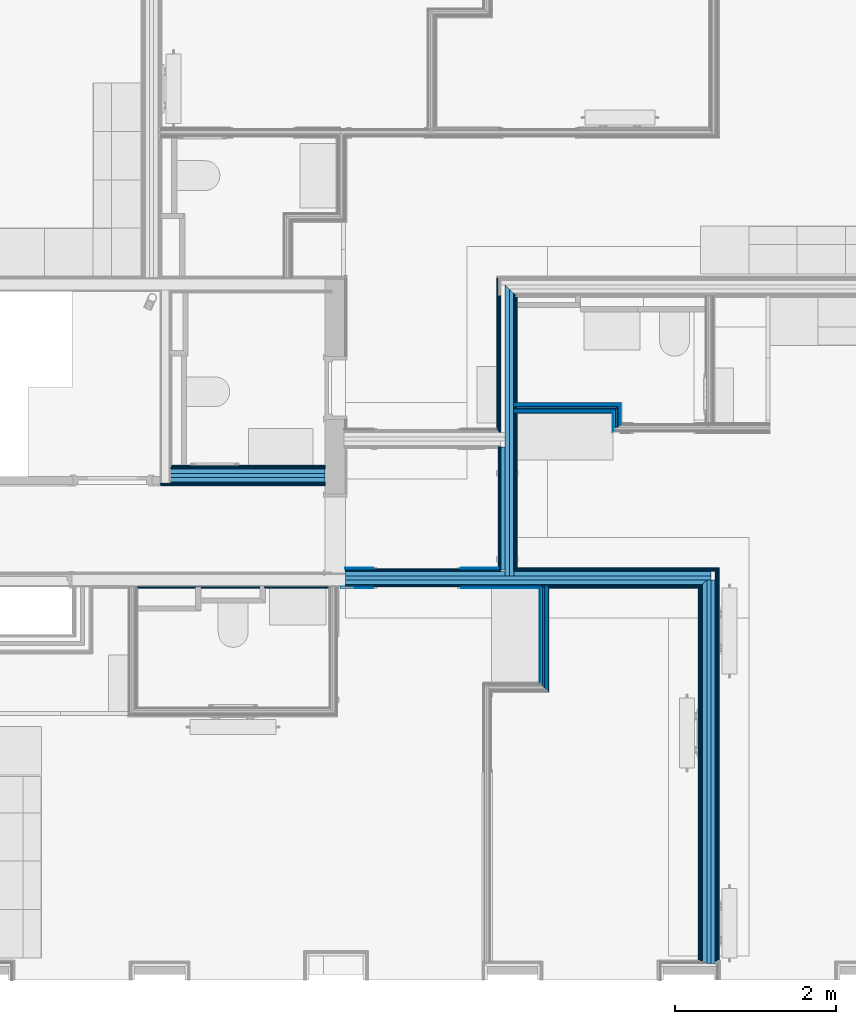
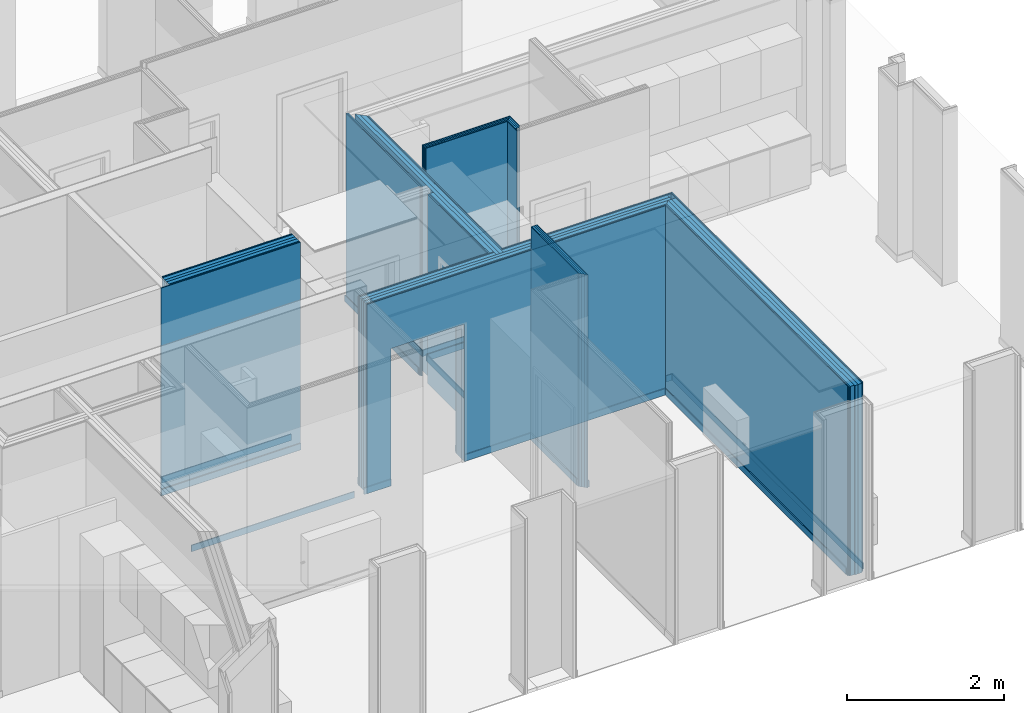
# One storey, part 23 of 65: 65 building element parts, 2 openings, 8 elements without a shape of their own.
"""IFC2X3 building model written with IfcOpenShell, lengths in metres."""

from ifc_helpers import new_model, entity, si_unit, converted_unit, derived_unit, money_unit, direction, frame, frame_2d, origin_with_axes, place, context, subcontext, project, spatial, polyline, rectangle, outline, extrude, material, type_object, element, aggregate, save


model = new_model("IFC2X3")

# Units and contexts
model_context = context("Model", 3, precision=1e-05, world=origin_with_axes(), true_north=direction((0.0, 1.0)))
body_context = subcontext(model_context, "Body", "Model", "MODEL_VIEW", scale=1.0)
ifc_project = project(units=[si_unit("LENGTHUNIT", "METRE"), si_unit("AREAUNIT", "SQUARE_METRE"), si_unit("VOLUMEUNIT", "CUBIC_METRE"), si_unit("ABSORBEDDOSEUNIT", "GRAY"), si_unit("AMOUNTOFSUBSTANCEUNIT", "MOLE"), si_unit("DOSEEQUIVALENTUNIT", "SIEVERT"), si_unit("ELECTRICCAPACITANCEUNIT", "FARAD"), si_unit("ELECTRICCHARGEUNIT", "COULOMB"), si_unit("ELECTRICCONDUCTANCEUNIT", "SIEMENS"), si_unit("ELECTRICCURRENTUNIT", "AMPERE"), si_unit("ELECTRICRESISTANCEUNIT", "OHM"), si_unit("ELECTRICVOLTAGEUNIT", "VOLT"), si_unit("ENERGYUNIT", "JOULE"), si_unit("FORCEUNIT", "NEWTON"), si_unit("FREQUENCYUNIT", "HERTZ"), si_unit("ILLUMINANCEUNIT", "LUX"), si_unit("INDUCTANCEUNIT", "HENRY"), si_unit("LUMINOUSFLUXUNIT", "LUMEN"), si_unit("LUMINOUSINTENSITYUNIT", "CANDELA"), si_unit("MAGNETICFLUXDENSITYUNIT", "TESLA"), si_unit("MAGNETICFLUXUNIT", "WEBER"), si_unit("MASSUNIT", "GRAM"), converted_unit("PLANEANGLEUNIT", "degree", entity("IfcReal", 0.0174532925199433), si_unit("PLANEANGLEUNIT", "RADIAN"), dimensions=[0, 0, 0, 0, 0, 0, 0]), si_unit("POWERUNIT", "WATT"), si_unit("PRESSUREUNIT", "PASCAL"), si_unit("RADIOACTIVITYUNIT", "BECQUEREL"), si_unit("SOLIDANGLEUNIT", "STERADIAN"), si_unit("THERMODYNAMICTEMPERATUREUNIT", "KELVIN"), si_unit("TIMEUNIT", "SECOND"), derived_unit("ACCELERATIONUNIT", [(si_unit("LENGTHUNIT", "METRE"), 1), (si_unit("TIMEUNIT", "SECOND"), -2)]), derived_unit("ANGULARVELOCITYUNIT", [(converted_unit("PLANEANGLEUNIT", "degree", entity("IfcReal", 0.0174532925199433), si_unit("PLANEANGLEUNIT", "RADIAN"), dimensions=[0, 0, 0, 0, 0, 0, 0]), 1), (si_unit("TIMEUNIT", "SECOND"), -1)]), derived_unit("CURVATUREUNIT", [(converted_unit("PLANEANGLEUNIT", "degree", entity("IfcReal", 0.0174532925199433), si_unit("PLANEANGLEUNIT", "RADIAN"), dimensions=[0, 0, 0, 0, 0, 0, 0]), 1), (si_unit("LENGTHUNIT", "METRE"), -1)]), derived_unit("DYNAMICVISCOSITYUNIT", [(si_unit("PRESSUREUNIT", "PASCAL"), 1), (si_unit("TIMEUNIT", "SECOND"), 1)]), derived_unit("HEATFLUXDENSITYUNIT", [(si_unit("POWERUNIT", "WATT"), 1), (si_unit("LENGTHUNIT", "METRE"), -2)]), derived_unit("HEATINGVALUEUNIT", [(si_unit("ENERGYUNIT", "JOULE"), 1), (si_unit("MASSUNIT", "GRAM"), -1)]), derived_unit("INTEGERCOUNTRATEUNIT", [(si_unit("TIMEUNIT", "SECOND"), -1)]), derived_unit("IONCONCENTRATIONUNIT", [(si_unit("MASSUNIT", "GRAM"), 1), (si_unit("VOLUMEUNIT", "CUBIC_METRE"), -1)]), derived_unit("ISOTHERMALMOISTURECAPACITYUNIT", [(si_unit("VOLUMEUNIT", "CUBIC_METRE"), 1), (si_unit("MASSUNIT", "GRAM"), -1)]), derived_unit("KINEMATICVISCOSITYUNIT", [(si_unit("AREAUNIT", "SQUARE_METRE"), 1), (si_unit("TIMEUNIT", "SECOND"), -1)]), derived_unit("LINEARFORCEUNIT", [(si_unit("FORCEUNIT", "NEWTON"), 1), (si_unit("LENGTHUNIT", "METRE"), -1)]), derived_unit("LINEARMOMENTUNIT", [(si_unit("FORCEUNIT", "NEWTON"), 1), (si_unit("LENGTHUNIT", "METRE"), -1)]), derived_unit("LINEARSTIFFNESSUNIT", [(si_unit("FORCEUNIT", "NEWTON"), 1), (si_unit("LENGTHUNIT", "METRE"), -1)]), derived_unit("LINEARVELOCITYUNIT", [(si_unit("LENGTHUNIT", "METRE"), 1), (si_unit("TIMEUNIT", "SECOND"), -1)]), derived_unit("LUMINOUSINTENSITYDISTRIBUTIONUNIT", [(si_unit("LUMINOUSINTENSITYUNIT", "CANDELA"), 1), (si_unit("LUMINOUSFLUXUNIT", "LUMEN"), -1)]), derived_unit("MASSDENSITYUNIT", [(si_unit("MASSUNIT", "GRAM"), 1), (si_unit("VOLUMEUNIT", "CUBIC_METRE"), -1)]), derived_unit("MASSFLOWRATEUNIT", [(si_unit("MASSUNIT", "GRAM"), 1), (si_unit("TIMEUNIT", "SECOND"), -1)]), derived_unit("MASSPERLENGTHUNIT", [(si_unit("MASSUNIT", "GRAM"), 1), (si_unit("LENGTHUNIT", "METRE"), -1)]), derived_unit("MODULUSOFELASTICITYUNIT", [(si_unit("FORCEUNIT", "NEWTON"), 1), (si_unit("AREAUNIT", "SQUARE_METRE"), -1)]), derived_unit("MODULUSOFLINEARSUBGRADEREACTIONUNIT", [(si_unit("FORCEUNIT", "NEWTON"), 1), (si_unit("LENGTHUNIT", "METRE"), -2)]), derived_unit("MODULUSOFROTATIONALSUBGRADEREACTIONUNIT", [(si_unit("FORCEUNIT", "NEWTON"), 1), (si_unit("LENGTHUNIT", "METRE"), 1)]), derived_unit("MODULUSOFSUBGRADEREACTIONUNIT", [(si_unit("FORCEUNIT", "NEWTON"), 1), (si_unit("VOLUMEUNIT", "CUBIC_METRE"), -1)]), derived_unit("MOISTUREDIFFUSIVITYUNIT", [(si_unit("VOLUMEUNIT", "CUBIC_METRE"), 1), (si_unit("TIMEUNIT", "SECOND"), -1)]), derived_unit("MOLECULARWEIGHTUNIT", [(si_unit("MASSUNIT", "GRAM"), 1), (si_unit("AMOUNTOFSUBSTANCEUNIT", "MOLE"), -1)]), derived_unit("PLANARFORCEUNIT", [(si_unit("FORCEUNIT", "NEWTON"), 1), (si_unit("LENGTHUNIT", "METRE"), -2)]), derived_unit("ROTATIONALFREQUENCYUNIT", [(si_unit("TIMEUNIT", "SECOND"), -1)]), derived_unit("ROTATIONALMASSUNIT", [(si_unit("MASSUNIT", "GRAM"), 1), (si_unit("LENGTHUNIT", "METRE"), 2)]), derived_unit("ROTATIONALSTIFFNESSUNIT", [(si_unit("FORCEUNIT", "NEWTON"), 1), (si_unit("LENGTHUNIT", "METRE"), 1), (converted_unit("PLANEANGLEUNIT", "degree", entity("IfcReal", 0.0174532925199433), si_unit("PLANEANGLEUNIT", "RADIAN"), dimensions=[0, 0, 0, 0, 0, 0, 0]), -1)]), derived_unit("SECTIONAREAINTEGRALUNIT", [(si_unit("LENGTHUNIT", "METRE"), 5)]), derived_unit("SECTIONMODULUSUNIT", [(si_unit("LENGTHUNIT", "METRE"), 3)]), derived_unit("SHEARMODULUSUNIT", [(si_unit("FORCEUNIT", "NEWTON"), 1), (si_unit("AREAUNIT", "SQUARE_METRE"), -1)]), derived_unit("SOUNDPOWERUNIT", [(si_unit("ENERGYUNIT", "JOULE"), 1), (si_unit("TIMEUNIT", "SECOND"), -1)]), derived_unit("SPECIFICHEATCAPACITYUNIT", [(si_unit("FORCEUNIT", "NEWTON"), 1), (si_unit("MASSUNIT", "GRAM"), -1), (si_unit("THERMODYNAMICTEMPERATUREUNIT", "KELVIN"), -1)]), derived_unit("TEMPERATUREGRADIENTUNIT", [(si_unit("THERMODYNAMICTEMPERATUREUNIT", "KELVIN"), 1), (si_unit("LENGTHUNIT", "METRE"), -1)]), derived_unit("THERMALADMITTANCEUNIT", [(si_unit("POWERUNIT", "WATT"), 1), (si_unit("AREAUNIT", "SQUARE_METRE"), -1), (si_unit("THERMODYNAMICTEMPERATUREUNIT", "KELVIN"), -1)]), derived_unit("THERMALCONDUCTANCEUNIT", [(si_unit("POWERUNIT", "WATT"), 1), (si_unit("LENGTHUNIT", "METRE"), -1), (si_unit("THERMODYNAMICTEMPERATUREUNIT", "KELVIN"), -1)]), derived_unit("THERMALEXPANSIONCOEFFICIENTUNIT", [(si_unit("THERMODYNAMICTEMPERATUREUNIT", "KELVIN"), -1)]), derived_unit("THERMALRESISTANCEUNIT", [(si_unit("AREAUNIT", "SQUARE_METRE"), 1), (si_unit("POWERUNIT", "WATT"), -1)]), derived_unit("THERMALTRANSMITTANCEUNIT", [(si_unit("POWERUNIT", "WATT"), 1), (si_unit("AREAUNIT", "SQUARE_METRE"), -1), (si_unit("THERMODYNAMICTEMPERATUREUNIT", "KELVIN"), -1)]), derived_unit("TORQUEUNIT", [(si_unit("FORCEUNIT", "NEWTON"), 1), (si_unit("LENGTHUNIT", "METRE"), 1)]), derived_unit("VAPORPERMEABILITYUNIT", [(si_unit("MASSUNIT", "GRAM"), 1), (si_unit("TIMEUNIT", "SECOND"), -1)]), derived_unit("VOLUMETRICFLOWRATEUNIT", [(si_unit("VOLUMEUNIT", "CUBIC_METRE"), 1), (si_unit("TIMEUNIT", "SECOND"), -1)]), derived_unit("WARPINGCONSTANTUNIT", [(si_unit("LENGTHUNIT", "METRE"), 6)]), derived_unit("WARPINGMOMENTUNIT", [(si_unit("FORCEUNIT", "NEWTON"), 1), (si_unit("LENGTHUNIT", "METRE"), 2)]), money_unit("GBP")], contexts=[model_context])

# Site, building, storey
site_placement = place(None, origin_with_axes())
site = spatial("IfcSite", under=ifc_project, at=site_placement, Name="Site", CompositionType="ELEMENT")
building_placement = place(site_placement, origin_with_axes())
building = spatial("IfcBuilding", under=site, at=building_placement, Name="Building01", CompositionType="ELEMENT")
storey_placement = place(building_placement, frame((0.0, 0.0, 8.64), z_axis=(0.0, 0.0, 1.0), x_axis=(1.0, 0.0, 0.0)))
storey = spatial("IfcBuildingStorey", under=building, at=storey_placement, Name="2F", CompositionType="ELEMENT", Elevation=8.64)

# Wall, building element parts
wall_type_1 = type_object("IfcWallType", Name="SHE_A-Walls_Type01c_Partywall_225mm_twin_tall", PredefinedType="NOTDEFINED")
wall_1_placement = place(storey_placement, frame((22.488, 5.068, 0.0), z_axis=(0.0, 0.0, 1.0), x_axis=(0.0, -1.0, 0.0)))
wall_1 = element("IfcWall", 1, at=wall_1_placement, inside=storey, type_object=wall_type_1, Name="1C", ObjectType="SHE_A-Walls_Type01c_Partywall_225mm_twin_tall")
ifc_material_1 = material(Name="A_BSUK_Walls_Timber")
placement_1 = place(wall_1_placement, origin_with_axes())
building_element_part_1 = element("IfcBuildingElementPart", 2, at=placement_1, material=ifc_material_1, Name="1", context=body_context, shape_type="SweptSolid", body=[
    extrude(outline(polyline([(4.72, -0.088), (0.088, -0.088), (0.103, -0.103), (4.72, -0.103), (4.72, -0.088)])), frame((0.0, 0.0, 0.015), z_axis=(0.0, 0.0, 1.0), x_axis=(1.0, 0.0, 0.0)), (0.0, 0.0, 1.0), 0.1),
])
ifc_material_2 = material(Name="A_BSUK_WallInternal_Finishes_Plasterboard")
building_element_part_2 = element("IfcBuildingElementPart", 3, at=placement_1, material=ifc_material_2, Name="2", context=body_context, shape_type="SweptSolid", body=[
    extrude(outline(polyline([(4.735, -0.073), (0.073, -0.073), (0.088, -0.088), (4.735, -0.088), (4.735, -0.073)])), origin_with_axes(), (0.0, 0.0, 1.0), 2.95),
])
building_element_part_3 = element("IfcBuildingElementPart", 4, at=placement_1, material=ifc_material_2, Name="3", context=body_context, shape_type="SweptSolid", body=[
    extrude(outline(polyline([(4.75, -0.058), (0.058, -0.058), (0.073, -0.073), (4.75, -0.073), (4.75, -0.058)])), origin_with_axes(), (0.0, 0.0, 1.0), 2.95),
])
ifc_material_3 = material(Name="Air Cavity")
building_element_part_4 = element("IfcBuildingElementPart", 5, at=placement_1, material=ifc_material_3, Name="4", context=body_context, shape_type="SweptSolid", body=[
    extrude(outline(polyline([(4.75, 0.0), (0.0, 0.0), (0.058, -0.058), (4.75, -0.058), (4.75, 0.0)])), origin_with_axes(), (0.0, 0.0, 1.0), 2.95),
])
ifc_material_4 = material(Name="A_BSUK_Insulation")
building_element_part_5 = element("IfcBuildingElementPart", 6, at=placement_1, material=ifc_material_4, Name="5", context=body_context, shape_type="SweptSolid", body=[
    extrude(rectangle(XDim=4.762, YDim=0.05, at=frame_2d((2.381, 0.025), x_axis=(-1.0, 0.0))), origin_with_axes(), (0.0, 0.0, 1.0), 2.95),
])
building_element_part_6 = element("IfcBuildingElementPart", 7, at=placement_1, material=ifc_material_3, Name="6", context=body_context, shape_type="SweptSolid", body=[
    extrude(rectangle(XDim=4.762, YDim=0.057, at=frame_2d((2.381, 0.0785), x_axis=(-1.0, 0.0))), origin_with_axes(), (0.0, 0.0, 1.0), 2.95),
])
building_element_part_7 = element("IfcBuildingElementPart", 8, at=placement_1, material=ifc_material_2, Name="7", context=body_context, shape_type="SweptSolid", body=[
    extrude(outline(polyline([(4.75, 0.122), (-0.122, 0.122), (-0.107, 0.107), (4.75, 0.107), (4.75, 0.122)])), origin_with_axes(), (0.0, 0.0, 1.0), 2.95),
])
building_element_part_8 = element("IfcBuildingElementPart", 9, at=placement_1, material=ifc_material_2, Name="8", context=body_context, shape_type="SweptSolid", body=[
    extrude(outline(polyline([(-0.137, 0.137), (-0.122, 0.122), (4.735, 0.122), (4.735, 0.137), (-0.137, 0.137)])), origin_with_axes(), (0.0, 0.0, 1.0), 2.95),
])
building_element_part_9 = element("IfcBuildingElementPart", 10, at=placement_1, material=ifc_material_1, Name="9", context=body_context, shape_type="SweptSolid", body=[
    extrude(outline(polyline([(-0.152, 0.152), (-0.137, 0.137), (4.72, 0.137), (4.72, 0.152), (-0.152, 0.152)])), frame((0.0, 0.0, 0.015), z_axis=(0.0, 0.0, 1.0), x_axis=(1.0, 0.0, 0.0)), (0.0, 0.0, 1.0), 0.1),
])
aggregate(wall_1, [building_element_part_1, building_element_part_2, building_element_part_3, building_element_part_4, building_element_part_5, building_element_part_6, building_element_part_7, building_element_part_8, building_element_part_9])

# Wall, openings, building element parts
wall_2_placement = place(storey_placement, frame((18.0, 5.068, 0.0), z_axis=(0.0, 0.0, 1.0), x_axis=(1.0, 0.0, 0.0)))
wall_2 = element("IfcWall", 11, at=wall_2_placement, inside=storey, type_object=wall_type_1, Name="1C", ObjectType="SHE_A-Walls_Type01c_Partywall_225mm_twin_tall")
opening_1_placement = place(wall_2_placement, frame((0.353, 0.152, -0.03), z_axis=(0.0, 0.0, 1.0), x_axis=(1.0, 0.0, 0.0)))
element("IfcOpeningElement", 12, at=opening_1_placement, cuts=wall_2, Name="Opening", ObjectType="Opening", context=body_context, shape_type="SweptSolid", body=[
    extrude(rectangle(XDim=2.142, YDim=1.084, at=frame_2d((0.542, 1.071), x_axis=(0.0, -1.0))), frame((0.0, 0.0, 0.0), z_axis=(0.0, -1.0, 0.0), x_axis=(1.0, 0.0, 0.0)), (0.0, 0.0, 1.0), 0.255),
])
opening_2_placement = place(wall_2_placement, frame((0.35, 0.152, 0.0), z_axis=(0.0, 0.0, 1.0), x_axis=(1.0, 0.0, 0.0)))
element("IfcOpeningElement", 13, at=opening_2_placement, cuts=wall_2, Name="Opening", ObjectType="Opening", context=body_context, shape_type="SweptSolid", body=[
    extrude(rectangle(XDim=2.142, YDim=1.084, at=frame_2d((0.542, 1.071), x_axis=(0.0, -1.0))), frame((0.0, 0.0, 0.0), z_axis=(0.0, -1.0, 0.0), x_axis=(1.0, 0.0, 0.0)), (0.0, 0.0, 1.0), 0.255),
])
placement_2 = place(wall_2_placement, origin_with_axes())
building_element_part_10 = element("IfcBuildingElementPart", 14, at=placement_2, material=ifc_material_1, Name="1", context=body_context, shape_type="SweptSolid", body=[
    extrude(rectangle(XDim=2.465, YDim=0.015, at=frame_2d((1.1825, -0.0955), x_axis=(-1.0, 0.0))), frame((0.0, 0.0, 0.015), z_axis=(0.0, 0.0, 1.0), x_axis=(1.0, 0.0, 0.0)), (0.0, 0.0, 1.0), 0.1),
])
building_element_part_11 = element("IfcBuildingElementPart", 15, at=placement_2, material=ifc_material_1, Name="2", context=body_context, shape_type="SweptSolid", body=[
    extrude(outline(polyline([(4.4, -0.088), (2.51, -0.088), (2.51, -0.103), (4.385, -0.103), (4.4, -0.088)])), frame((0.0, 0.0, 0.015), z_axis=(0.0, 0.0, 1.0), x_axis=(1.0, 0.0, 0.0)), (0.0, 0.0, 1.0), 0.1),
])
building_element_part_12 = element("IfcBuildingElementPart", 16, at=placement_2, material=ifc_material_2, Name="3", context=body_context, shape_type="SweptSolid", body=[
    extrude(outline(polyline([(4.415, -0.073), (0.0, -0.073), (0.0, -0.088), (4.4, -0.088), (4.415, -0.073)])), origin_with_axes(), (0.0, 0.0, 1.0), 2.95),
])
building_element_part_13 = element("IfcBuildingElementPart", 17, at=placement_2, material=ifc_material_2, Name="4", context=body_context, shape_type="SweptSolid", body=[
    extrude(outline(polyline([(4.415, -0.073), (0.0, -0.073), (0.0, -0.088), (4.4, -0.088), (4.415, -0.073)])), origin_with_axes(), (0.0, 0.0, 1.0), 2.95),
])
building_element_part_14 = element("IfcBuildingElementPart", 18, at=placement_2, material=ifc_material_2, Name="5", context=body_context, shape_type="SweptSolid", body=[
    extrude(outline(polyline([(4.43, -0.058), (-8.9e-05, -0.058), (-8.9e-05, -0.073), (4.415, -0.073), (4.43, -0.058)])), origin_with_axes(), (0.0, 0.0, 1.0), 2.95),
])
building_element_part_15 = element("IfcBuildingElementPart", 19, at=placement_2, material=ifc_material_3, Name="6", context=body_context, shape_type="SweptSolid", body=[
    extrude(outline(polyline([(4.488, 0.0), (-8.9e-05, 0.0), (-8.9e-05, -0.058), (4.43, -0.058), (4.488, 0.0)])), origin_with_axes(), (0.0, 0.0, 1.0), 2.95),
])
building_element_part_16 = element("IfcBuildingElementPart", 20, at=placement_2, material=ifc_material_4, Name="7", context=body_context, shape_type="SweptSolid", body=[
    extrude(rectangle(XDim=4.538, YDim=0.05, at=frame_2d((2.269, 0.025), x_axis=(-1.0, 0.0))), origin_with_axes(), (0.0, 0.0, 1.0), 2.95),
])
building_element_part_17 = element("IfcBuildingElementPart", 21, at=placement_2, material=ifc_material_3, Name="8", context=body_context, shape_type="SweptSolid", body=[
    extrude(rectangle(XDim=4.538, YDim=0.057, at=frame_2d((2.269, 0.0785), x_axis=(-1.0, 0.0))), origin_with_axes(), (0.0, 0.0, 1.0), 2.95),
])
building_element_part_18 = element("IfcBuildingElementPart", 22, at=placement_2, material=ifc_material_2, Name="9", context=body_context, shape_type="SweptSolid", body=[
    extrude(rectangle(XDim=1.927661, YDim=0.015, at=frame_2d((0.963831, 0.1145), x_axis=(-1.0, 0.0))), origin_with_axes(), (0.0, 0.0, 1.0), 2.95),
])
building_element_part_19 = element("IfcBuildingElementPart", 23, at=placement_2, material=ifc_material_2, Name="10", context=body_context, shape_type="SweptSolid", body=[
    extrude(outline(polyline([(4.61, 0.122), (2.107661, 0.122), (2.107661, 0.107), (4.595, 0.107), (4.61, 0.122)])), origin_with_axes(), (0.0, 0.0, 1.0), 2.95),
])
building_element_part_20 = element("IfcBuildingElementPart", 24, at=placement_2, material=ifc_material_2, Name="11", context=body_context, shape_type="SweptSolid", body=[
    extrude(rectangle(XDim=1.912661, YDim=0.015, at=frame_2d((0.956331, 0.1295), x_axis=(-1.0, 0.0))), origin_with_axes(), (0.0, 0.0, 1.0), 2.95),
])
building_element_part_21 = element("IfcBuildingElementPart", 25, at=placement_2, material=ifc_material_2, Name="12", context=body_context, shape_type="SweptSolid", body=[
    extrude(outline(polyline([(4.625, 0.137), (2.107661, 0.137), (2.107661, 0.122), (4.61, 0.122), (4.625, 0.137)])), origin_with_axes(), (0.0, 0.0, 1.0), 2.95),
])
building_element_part_22 = element("IfcBuildingElementPart", 26, at=placement_2, material=ifc_material_1, Name="13", context=body_context, shape_type="SweptSolid", body=[
    extrude(rectangle(XDim=1.897661, YDim=0.015, at=frame_2d((0.948831, 0.1445), x_axis=(-1.0, 0.0))), frame((0.0, 0.0, 0.015), z_axis=(0.0, 0.0, 1.0), x_axis=(1.0, 0.0, 0.0)), (0.0, 0.0, 1.0), 0.1),
])
building_element_part_23 = element("IfcBuildingElementPart", 27, at=placement_2, material=ifc_material_1, Name="14", context=body_context, shape_type="SweptSolid", body=[
    extrude(outline(polyline([(4.64, 0.152), (2.137661, 0.152), (2.137661, 0.137), (4.625, 0.137), (4.64, 0.152)])), frame((0.0, 0.0, 0.015), z_axis=(0.0, 0.0, 1.0), x_axis=(1.0, 0.0, 0.0)), (0.0, 0.0, 1.0), 0.1),
])
aggregate(wall_2, [building_element_part_10, building_element_part_11, building_element_part_12, building_element_part_13, building_element_part_14, building_element_part_15, building_element_part_16, building_element_part_17, building_element_part_18, building_element_part_19, building_element_part_20, building_element_part_21, building_element_part_22, building_element_part_23])

# Wall, building element parts
wall_3_placement = place(storey_placement, frame((17.75, 6.337, 0.0), z_axis=(0.0, 0.0, 1.0), x_axis=(-1.0, 0.0, 0.0)))
wall_3 = element("IfcWall", 28, at=wall_3_placement, inside=storey, type_object=wall_type_1, Name="1C", ObjectType="SHE_A-Walls_Type01c_Partywall_225mm_twin_tall")
placement_3 = place(wall_3_placement, origin_with_axes())
building_element_part_24 = element("IfcBuildingElementPart", 29, at=placement_3, material=ifc_material_1, Name="1", context=body_context, shape_type="SweptSolid", body=[
    extrude(rectangle(XDim=1.905, YDim=0.015, at=frame_2d((0.9525, -0.1455), x_axis=(-1.0, 0.0))), frame((0.0, 0.0, 0.015), z_axis=(0.0, 0.0, 1.0), x_axis=(1.0, 0.0, 0.0)), (0.0, 0.0, 1.0), 0.1),
])
building_element_part_25 = element("IfcBuildingElementPart", 30, at=placement_3, material=ifc_material_2, Name="2", context=body_context, shape_type="SweptSolid", body=[
    extrude(outline(polyline([(1.92, -0.123), (0.0, -0.123), (0.0, -0.138), (1.905, -0.138), (1.92, -0.123)])), origin_with_axes(), (0.0, 0.0, 1.0), 3.24),
])
building_element_part_26 = element("IfcBuildingElementPart", 31, at=placement_3, material=ifc_material_2, Name="3", context=body_context, shape_type="SweptSolid", body=[
    extrude(rectangle(XDim=1.92, YDim=0.015, at=frame_2d((0.96, -0.1155), x_axis=(-1.0, 0.0))), origin_with_axes(), (0.0, 0.0, 1.0), 3.24),
])
building_element_part_27 = element("IfcBuildingElementPart", 32, at=placement_3, material=ifc_material_3, Name="4", context=body_context, shape_type="SweptSolid", body=[
    extrude(rectangle(XDim=1.92, YDim=0.058, at=frame_2d((0.96, -0.079), x_axis=(-1.0, 0.0))), origin_with_axes(), (0.0, 0.0, 1.0), 3.24),
])
building_element_part_28 = element("IfcBuildingElementPart", 33, at=placement_3, material=ifc_material_4, Name="5", context=body_context, shape_type="SweptSolid", body=[
    extrude(rectangle(XDim=1.92, YDim=0.05, at=frame_2d((0.96, -0.025), x_axis=(-1.0, 0.0))), origin_with_axes(), (0.0, 0.0, 1.0), 3.24),
])
building_element_part_29 = element("IfcBuildingElementPart", 34, at=placement_3, material=ifc_material_3, Name="6", context=body_context, shape_type="SweptSolid", body=[
    extrude(rectangle(XDim=1.92, YDim=0.057, at=frame_2d((0.96, 0.0285), x_axis=(-1.0, 0.0))), origin_with_axes(), (0.0, 0.0, 1.0), 3.24),
])
building_element_part_30 = element("IfcBuildingElementPart", 35, at=placement_3, material=ifc_material_2, Name="7", context=body_context, shape_type="SweptSolid", body=[
    extrude(rectangle(XDim=1.92, YDim=0.015, at=frame_2d((0.96, 0.0645), x_axis=(-1.0, 0.0))), origin_with_axes(), (0.0, 0.0, 1.0), 3.24),
])
building_element_part_31 = element("IfcBuildingElementPart", 36, at=placement_3, material=ifc_material_2, Name="8", context=body_context, shape_type="SweptSolid", body=[
    extrude(rectangle(XDim=2.05, YDim=0.015, at=frame_2d((1.025, 0.0795), x_axis=(-1.0, 0.0))), origin_with_axes(), (0.0, 0.0, 1.0), 3.24),
])
building_element_part_32 = element("IfcBuildingElementPart", 37, at=placement_3, material=ifc_material_1, Name="9", context=body_context, shape_type="SweptSolid", body=[
    extrude(rectangle(XDim=2.05, YDim=0.015, at=frame_2d((1.025, 0.0945), x_axis=(-1.0, 0.0))), frame((0.0, 0.0, 0.015), z_axis=(0.0, 0.0, 1.0), x_axis=(1.0, 0.0, 0.0)), (0.0, 0.0, 1.0), 0.1),
])
aggregate(wall_3, [building_element_part_24, building_element_part_25, building_element_part_26, building_element_part_27, building_element_part_28, building_element_part_29, building_element_part_30, building_element_part_31, building_element_part_32])

wall_4_placement = place(storey_placement, frame((19.985661, 8.732, 0.0), z_axis=(0.0, 0.0, 1.0), x_axis=(0.0, -1.0, 0.0)))
wall_4 = element("IfcWall", 38, at=wall_4_placement, inside=storey, type_object=wall_type_1, Name="1C", ObjectType="SHE_A-Walls_Type01c_Partywall_225mm_twin_tall")
placement_4 = place(wall_4_placement, origin_with_axes())
building_element_part_33 = element("IfcBuildingElementPart", 39, at=placement_4, material=ifc_material_1, Name="1", context=body_context, shape_type="SweptSolid", body=[
    extrude(outline(polyline([(1.787, -0.088), (-0.073, -0.088), (-0.088, -0.103), (1.787, -0.103), (1.787, -0.088)])), frame((0.0, 0.0, 0.015), z_axis=(0.0, 0.0, 1.0), x_axis=(1.0, 0.0, 0.0)), (0.0, 0.0, 1.0), 0.1),
])
building_element_part_34 = element("IfcBuildingElementPart", 40, at=placement_4, material=ifc_material_1, Name="2", context=body_context, shape_type="SweptSolid", body=[
    extrude(outline(polyline([(1.802, -0.088), (-0.073, -0.088), (-0.088, -0.103), (1.802, -0.103), (1.802, -0.088)])), frame((0.0, 0.0, 0.015), z_axis=(0.0, 0.0, 1.0), x_axis=(1.0, 0.0, 0.0)), (0.0, 0.0, 1.0), 0.1),
])
building_element_part_35 = element("IfcBuildingElementPart", 41, at=placement_4, material=ifc_material_2, Name="3", context=body_context, shape_type="SweptSolid", body=[
    extrude(rectangle(XDim=1.89, YDim=0.015, at=frame_2d((0.872, -0.0805), x_axis=(-1.0, 0.0))), origin_with_axes(), (0.0, 0.0, 1.0), 2.95),
])
building_element_part_36 = element("IfcBuildingElementPart", 42, at=placement_4, material=ifc_material_2, Name="5", context=body_context, shape_type="SweptSolid", body=[
    extrude(rectangle(XDim=1.515, YDim=0.015, at=frame_2d((2.7695, -0.0805), x_axis=(-1.0, 0.0))), origin_with_axes(), (0.0, 0.0, 1.0), 2.95),
])
building_element_part_37 = element("IfcBuildingElementPart", 43, at=placement_4, material=ifc_material_2, Name="6", context=body_context, shape_type="SweptSolid", body=[
    extrude(rectangle(XDim=1.89, YDim=0.015, at=frame_2d((0.887, -0.0655), x_axis=(-1.0, 0.0))), origin_with_axes(), (0.0, 0.0, 1.0), 2.95),
])
building_element_part_38 = element("IfcBuildingElementPart", 44, at=placement_4, material=ifc_material_2, Name="8", context=body_context, shape_type="SweptSolid", body=[
    extrude(rectangle(XDim=1.53, YDim=0.015, at=frame_2d((2.777, -0.0655), x_axis=(-1.0, 0.0))), origin_with_axes(), (0.0, 0.0, 1.0), 2.95),
])
building_element_part_39 = element("IfcBuildingElementPart", 45, at=placement_4, material=ifc_material_3, Name="9", context=body_context, shape_type="SweptSolid", body=[
    extrude(rectangle(XDim=1.53, YDim=0.058, at=frame_2d((2.777, -0.029), x_axis=(-1.0, 0.0))), origin_with_axes(), (0.0, 0.0, 1.0), 2.95),
])
building_element_part_40 = element("IfcBuildingElementPart", 46, at=placement_4, material=ifc_material_4, Name="10", context=body_context, shape_type="SweptSolid", body=[
    extrude(outline(polyline([(3.614, 0.05), (0.05, 0.05), (0.0, 0.0), (3.614, 0.0), (3.614, 0.05)])), origin_with_axes(), (0.0, 0.0, 1.0), 2.95),
])
building_element_part_41 = element("IfcBuildingElementPart", 47, at=placement_4, material=ifc_material_3, Name="11", context=body_context, shape_type="SweptSolid", body=[
    extrude(outline(polyline([(3.614, 0.107), (0.107, 0.107), (0.05, 0.05), (3.614, 0.05), (3.614, 0.107)])), origin_with_axes(), (0.0, 0.0, 1.0), 2.95),
])
building_element_part_42 = element("IfcBuildingElementPart", 48, at=placement_4, material=ifc_material_2, Name="12", context=body_context, shape_type="SweptSolid", body=[
    extrude(outline(polyline([(3.557, 0.122), (0.122, 0.122), (0.107, 0.107), (3.557, 0.107), (3.557, 0.122)])), origin_with_axes(), (0.0, 0.0, 1.0), 2.95),
])
building_element_part_43 = element("IfcBuildingElementPart", 49, at=placement_4, material=ifc_material_2, Name="13", context=body_context, shape_type="SweptSolid", body=[
    extrude(rectangle(XDim=3.405, YDim=0.015, at=frame_2d((1.8245, 0.1295), x_axis=(-1.0, 0.0))), origin_with_axes(), (0.0, 0.0, 1.0), 2.95),
])
building_element_part_44 = element("IfcBuildingElementPart", 50, at=placement_4, material=ifc_material_1, Name="14", context=body_context, shape_type="SweptSolid", body=[
    extrude(rectangle(XDim=1.33, YDim=0.015, at=frame_2d((0.817, 0.1445), x_axis=(-1.0, 0.0))), frame((0.0, 0.0, 0.015), z_axis=(0.0, 0.0, 1.0), x_axis=(1.0, 0.0, 0.0)), (0.0, 0.0, 1.0), 0.1),
])
building_element_part_45 = element("IfcBuildingElementPart", 51, at=placement_4, material=ifc_material_1, Name="15", context=body_context, shape_type="SweptSolid", body=[
    extrude(rectangle(XDim=1.935, YDim=0.015, at=frame_2d((2.5595, 0.1445), x_axis=(-1.0, 0.0))), frame((0.0, 0.0, 0.015), z_axis=(0.0, 0.0, 1.0), x_axis=(1.0, 0.0, 0.0)), (0.0, 0.0, 1.0), 0.1),
])
aggregate(wall_4, [building_element_part_33, building_element_part_34, building_element_part_35, building_element_part_36, building_element_part_37, building_element_part_38, building_element_part_39, building_element_part_40, building_element_part_41, building_element_part_42, building_element_part_43, building_element_part_44, building_element_part_45])

wall_type_2 = type_object("IfcWallType", Name="SHE_A-Walls_Type05a_Partition_95mm_tall", PredefinedType="NOTDEFINED")
wall_5_placement = place(storey_placement, frame((21.382661, 6.965, 0.0), z_axis=(0.0, 0.0, 1.0), x_axis=(0.0, 1.0, 0.0)))
wall_5 = element("IfcWall", 52, at=wall_5_placement, inside=storey, type_object=wall_type_2, Name="5A", ObjectType="SHE_A-Walls_Type05a_Partition_95mm_tall")
placement_5 = place(wall_5_placement, origin_with_axes())
building_element_part_46 = element("IfcBuildingElementPart", 53, at=placement_5, material=ifc_material_2, Name="2", context=body_context, shape_type="SweptSolid", body=[
    extrude(outline(polyline([(0.273, -0.023), (0.023, -0.023), (0.035, -0.035), (0.285, -0.035), (0.273, -0.023)])), origin_with_axes(), (0.0, 0.0, 1.0), 3.32),
])
building_element_part_47 = element("IfcBuildingElementPart", 54, at=placement_5, material=ifc_material_3, Name="3", context=body_context, shape_type="SweptSolid", body=[
    extrude(outline(polyline([(0.25, 0.0), (0.0, 0.0), (0.023, -0.023), (0.273, -0.023), (0.25, 0.0)])), origin_with_axes(), (0.0, 0.0, 1.0), 3.32),
])
building_element_part_48 = element("IfcBuildingElementPart", 55, at=placement_5, material=ifc_material_4, Name="4", context=body_context, shape_type="SweptSolid", body=[
    extrude(outline(polyline([(0.225, 0.025), (0.0, 0.025), (0.0, 0.0), (0.25, 0.0), (0.225, 0.025)])), origin_with_axes(), (0.0, 0.0, 1.0), 3.32),
])
building_element_part_49 = element("IfcBuildingElementPart", 56, at=placement_5, material=ifc_material_3, Name="5", context=body_context, shape_type="SweptSolid", body=[
    extrude(outline(polyline([(0.202, 0.048), (0.0, 0.048), (0.0, 0.025), (0.225, 0.025), (0.202, 0.048)])), origin_with_axes(), (0.0, 0.0, 1.0), 3.32),
])
building_element_part_50 = element("IfcBuildingElementPart", 57, at=placement_5, material=ifc_material_2, Name="6", context=body_context, shape_type="SweptSolid", body=[
    extrude(outline(polyline([(0.19, 0.06), (-0.06, 0.06), (-0.048, 0.048), (0.202, 0.048), (0.19, 0.06)])), origin_with_axes(), (0.0, 0.0, 1.0), 3.32),
])
aggregate(wall_5, [building_element_part_46, building_element_part_47, building_element_part_48, building_element_part_49, building_element_part_50])

wall_6_placement = place(storey_placement, frame((21.382661, 7.215, 0.0), z_axis=(0.0, 0.0, 1.0), x_axis=(-1.0, 0.0, 0.0)))
wall_6 = element("IfcWall", 58, at=wall_6_placement, inside=storey, type_object=wall_type_2, Name="5A", ObjectType="SHE_A-Walls_Type05a_Partition_95mm_tall")
placement_6 = place(wall_6_placement, origin_with_axes())
building_element_part_51 = element("IfcBuildingElementPart", 59, at=placement_6, material=ifc_material_1, Name="1", context=body_context, shape_type="SweptSolid", body=[
    extrude(outline(polyline([(1.245, -0.035), (-0.035, -0.035), (-0.05, -0.05), (1.245, -0.05), (1.245, -0.035)])), frame((0.0, 0.0, 0.015), z_axis=(0.0, 0.0, 1.0), x_axis=(1.0, 0.0, 0.0)), (0.0, 0.0, 1.0), 0.1),
])
building_element_part_52 = element("IfcBuildingElementPart", 60, at=placement_6, material=ifc_material_2, Name="2", context=body_context, shape_type="SweptSolid", body=[
    extrude(outline(polyline([(1.26, -0.023), (-0.023, -0.023), (-0.035, -0.035), (1.26, -0.035), (1.26, -0.023)])), origin_with_axes(), (0.0, 0.0, 1.0), 3.32),
])
building_element_part_53 = element("IfcBuildingElementPart", 61, at=placement_6, material=ifc_material_3, Name="3", context=body_context, shape_type="SweptSolid", body=[
    extrude(outline(polyline([(1.26, 0.0), (0.0, 0.0), (-0.023, -0.023), (1.26, -0.023), (1.26, 0.0)])), origin_with_axes(), (0.0, 0.0, 1.0), 3.32),
])
building_element_part_54 = element("IfcBuildingElementPart", 62, at=placement_6, material=ifc_material_4, Name="4", context=body_context, shape_type="SweptSolid", body=[
    extrude(outline(polyline([(1.26, 0.025), (0.025, 0.025), (0.0, 0.0), (1.26, 0.0), (1.26, 0.025)])), origin_with_axes(), (0.0, 0.0, 1.0), 3.32),
])
building_element_part_55 = element("IfcBuildingElementPart", 63, at=placement_6, material=ifc_material_3, Name="5", context=body_context, shape_type="SweptSolid", body=[
    extrude(outline(polyline([(1.26, 0.048), (0.048, 0.048), (0.025, 0.025), (1.26, 0.025), (1.26, 0.048)])), origin_with_axes(), (0.0, 0.0, 1.0), 3.32),
])
building_element_part_56 = element("IfcBuildingElementPart", 64, at=placement_6, material=ifc_material_2, Name="6", context=body_context, shape_type="SweptSolid", body=[
    extrude(outline(polyline([(1.26, 0.06), (0.06, 0.06), (0.048, 0.048), (1.26, 0.048), (1.26, 0.06)])), origin_with_axes(), (0.0, 0.0, 1.0), 3.32),
])
building_element_part_57 = element("IfcBuildingElementPart", 65, at=placement_6, material=ifc_material_1, Name="7", context=body_context, shape_type="SweptSolid", body=[
    extrude(outline(polyline([(1.26, 0.075), (0.075, 0.075), (0.06, 0.06), (1.26, 0.06), (1.26, 0.075)])), frame((0.0, 0.0, 0.015), z_axis=(0.0, 0.0, 1.0), x_axis=(1.0, 0.0, 0.0)), (0.0, 0.0, 1.0), 0.1),
])
aggregate(wall_6, [building_element_part_51, building_element_part_52, building_element_part_53, building_element_part_54, building_element_part_55, building_element_part_56, building_element_part_57])

# Wall, building element part
wall_type_3 = type_object("IfcWallType", Name="SHE_A-Walls_Type03a_BlockworkWall_170mm", PredefinedType="NOTDEFINED")
wall_7_placement = place(storey_placement, frame((9.075, 4.995, 0.0), z_axis=(0.0, 0.0, 1.0), x_axis=(1.0, 0.0, 0.0)))
wall_7 = element("IfcWall", 66, at=wall_7_placement, inside=storey, type_object=wall_type_3, Name="4B", ObjectType="SHE_A-Walls_Type03a_BlockworkWall_170mm")
building_element_part_58_placement = place(wall_7_placement, origin_with_axes())
building_element_part_58 = element("IfcBuildingElementPart", 67, at=building_element_part_58_placement, material=ifc_material_1, Name="5", context=body_context, shape_type="SweptSolid", body=[
    extrude(rectangle(XDim=2.4, YDim=0.015, at=frame_2d((7.5325, -0.0225), x_axis=(-1.0, 0.0))), frame((0.0, 0.0, 0.015), z_axis=(0.0, 0.0, 1.0), x_axis=(1.0, 0.0, 0.0)), (0.0, 0.0, 1.0), 0.1),
])
aggregate(wall_7, [building_element_part_58])

# Wall, building element parts
wall_8_placement = place(storey_placement, frame((20.475, 3.72, 0.0), z_axis=(0.0, 0.0, 1.0), x_axis=(0.0, 1.0, 0.0)))
wall_8 = element("IfcWall", 68, at=wall_8_placement, inside=storey, type_object=wall_type_2, Name="5A", ObjectType="SHE_A-Walls_Type05a_Partition_95mm_tall")
placement_7 = place(wall_8_placement, origin_with_axes())
building_element_part_59 = element("IfcBuildingElementPart", 69, at=placement_7, material=ifc_material_1, Name="1", context=body_context, shape_type="SweptSolid", body=[
    extrude(outline(polyline([(1.245, -0.035), (-0.035, -0.035), (-0.05, -0.05), (1.245, -0.05), (1.245, -0.035)])), frame((0.0, 0.0, 0.015), z_axis=(0.0, 0.0, 1.0), x_axis=(1.0, 0.0, 0.0)), (0.0, 0.0, 1.0), 0.1),
])
building_element_part_60 = element("IfcBuildingElementPart", 70, at=placement_7, material=ifc_material_2, Name="2", context=body_context, shape_type="SweptSolid", body=[
    extrude(outline(polyline([(1.26, -0.023), (-0.023, -0.023), (-0.035, -0.035), (1.26, -0.035), (1.26, -0.023)])), origin_with_axes(), (0.0, 0.0, 1.0), 3.32),
])
building_element_part_61 = element("IfcBuildingElementPart", 71, at=placement_7, material=ifc_material_3, Name="3", context=body_context, shape_type="SweptSolid", body=[
    extrude(outline(polyline([(1.26, 0.0), (0.0, 0.0), (-0.023, -0.023), (1.26, -0.023), (1.26, 0.0)])), origin_with_axes(), (0.0, 0.0, 1.0), 3.32),
])
building_element_part_62 = element("IfcBuildingElementPart", 72, at=placement_7, material=ifc_material_4, Name="4", context=body_context, shape_type="SweptSolid", body=[
    extrude(outline(polyline([(1.26, 0.025), (0.025, 0.025), (0.0, 0.0), (1.26, 0.0), (1.26, 0.025)])), origin_with_axes(), (0.0, 0.0, 1.0), 3.32),
])
building_element_part_63 = element("IfcBuildingElementPart", 73, at=placement_7, material=ifc_material_3, Name="5", context=body_context, shape_type="SweptSolid", body=[
    extrude(outline(polyline([(1.26, 0.048), (0.048, 0.048), (0.025, 0.025), (1.26, 0.025), (1.26, 0.048)])), origin_with_axes(), (0.0, 0.0, 1.0), 3.32),
])
building_element_part_64 = element("IfcBuildingElementPart", 74, at=placement_7, material=ifc_material_2, Name="6", context=body_context, shape_type="SweptSolid", body=[
    extrude(outline(polyline([(1.26, 0.06), (0.06, 0.06), (0.048, 0.048), (1.26, 0.048), (1.26, 0.06)])), origin_with_axes(), (0.0, 0.0, 1.0), 3.32),
])
building_element_part_65 = element("IfcBuildingElementPart", 75, at=placement_7, material=ifc_material_1, Name="7", context=body_context, shape_type="SweptSolid", body=[
    extrude(outline(polyline([(1.245, 0.075), (0.075, 0.075), (0.06, 0.06), (1.245, 0.06), (1.245, 0.075)])), frame((0.0, 0.0, 0.015), z_axis=(0.0, 0.0, 1.0), x_axis=(1.0, 0.0, 0.0)), (0.0, 0.0, 1.0), 0.1),
])
aggregate(wall_8, [building_element_part_59, building_element_part_60, building_element_part_61, building_element_part_62, building_element_part_63, building_element_part_64, building_element_part_65])

save(model, "model.ifc")
